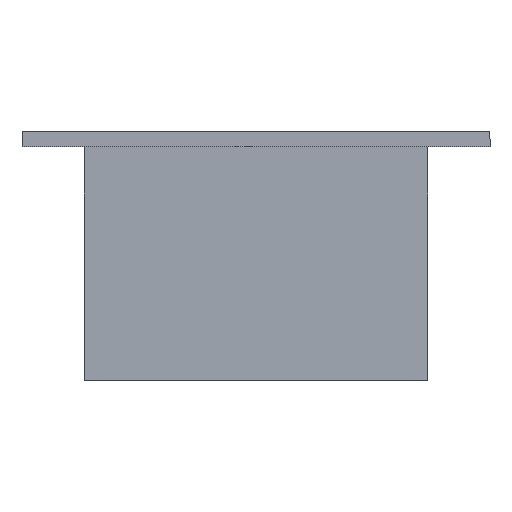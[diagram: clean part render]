
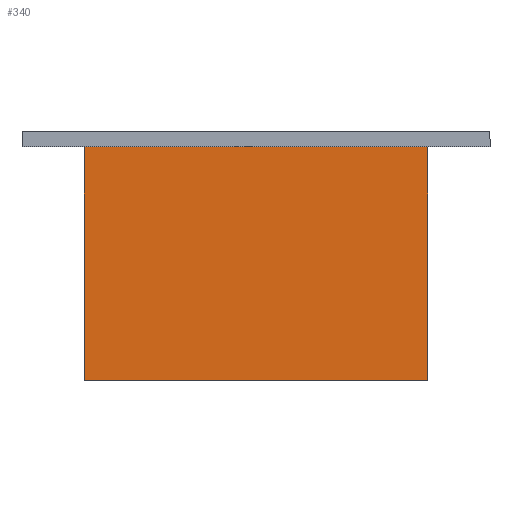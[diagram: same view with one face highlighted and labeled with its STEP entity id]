
A CAD part, left-side view. The second image highlights one B-rep face of the part: STEP entity #340.
In plain terms, the highlighted planar face has unit normal (-1, 0, 0).
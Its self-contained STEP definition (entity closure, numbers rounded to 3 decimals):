
#47 = LINE ( 'NONE', #406, #52 ) ;
#51 = LINE ( 'NONE', #435, #53 ) ;
#52 = VECTOR ( 'NONE', #426, 1000. ) ;
#53 = VECTOR ( 'NONE', #436, 1000. ) ;
#85 = EDGE_CURVE ( 'NONE', #627, #628, #51, .T. ) ;
#92 = EDGE_CURVE ( 'NONE', #634, #621, #47, .T. ) ;
#102 = EDGE_CURVE ( 'NONE', #628, #621, #207, .T. ) ;
#106 = EDGE_CURVE ( 'NONE', #627, #634, #227, .T. ) ;
#111 = AXIS2_PLACEMENT_3D ( 'NONE', #556, #558, #538 ) ;
#181 = EDGE_LOOP ( 'NONE', ( #666, #643, #657, #672 ) ) ;
#207 = LINE ( 'NONE', #457, #213 ) ;
#213 = VECTOR ( 'NONE', #473, 1000. ) ;
#227 = LINE ( 'NONE', #465, #229 ) ;
#229 = VECTOR ( 'NONE', #472, 1000. ) ;
#340 = ADVANCED_FACE ( 'NONE', ( #716 ), #549, .F. ) ;
#406 = CARTESIAN_POINT ( 'NONE',  ( -1., -22., 30. ) ) ;
#426 = DIRECTION ( 'NONE',  ( 0., 0., -1. ) ) ;
#435 = CARTESIAN_POINT ( 'NONE',  ( -1., 22., 30. ) ) ;
#436 = DIRECTION ( 'NONE',  ( 0., 0., -1. ) ) ;
#457 = CARTESIAN_POINT ( 'NONE',  ( -1., 22., 0. ) ) ;
#465 = CARTESIAN_POINT ( 'NONE',  ( -1., 22., 30. ) ) ;
#472 = DIRECTION ( 'NONE',  ( 0., -1., 0. ) ) ;
#473 = DIRECTION ( 'NONE',  ( 0., -1., 0. ) ) ;
#538 = DIRECTION ( 'NONE',  ( 0., 1., 0. ) ) ;
#549 = PLANE ( 'NONE',  #111 ) ;
#556 = CARTESIAN_POINT ( 'NONE',  ( -1., 22., 30. ) ) ;
#558 = DIRECTION ( 'NONE',  ( 1., 0., 0. ) ) ;
#563 = CARTESIAN_POINT ( 'NONE',  ( -1., -22., 0. ) ) ;
#579 = CARTESIAN_POINT ( 'NONE',  ( -1., 22., 30. ) ) ;
#582 = CARTESIAN_POINT ( 'NONE',  ( -1., 22., 0. ) ) ;
#587 = CARTESIAN_POINT ( 'NONE',  ( -1., -22., 30. ) ) ;
#621 = VERTEX_POINT ( 'NONE', #563 ) ;
#627 = VERTEX_POINT ( 'NONE', #579 ) ;
#628 = VERTEX_POINT ( 'NONE', #582 ) ;
#634 = VERTEX_POINT ( 'NONE', #587 ) ;
#643 = ORIENTED_EDGE ( 'NONE', *, *, #92, .F. ) ;
#657 = ORIENTED_EDGE ( 'NONE', *, *, #106, .F. ) ;
#666 = ORIENTED_EDGE ( 'NONE', *, *, #102, .T. ) ;
#672 = ORIENTED_EDGE ( 'NONE', *, *, #85, .T. ) ;
#716 = FACE_OUTER_BOUND ( 'NONE', #181, .T. ) ;
